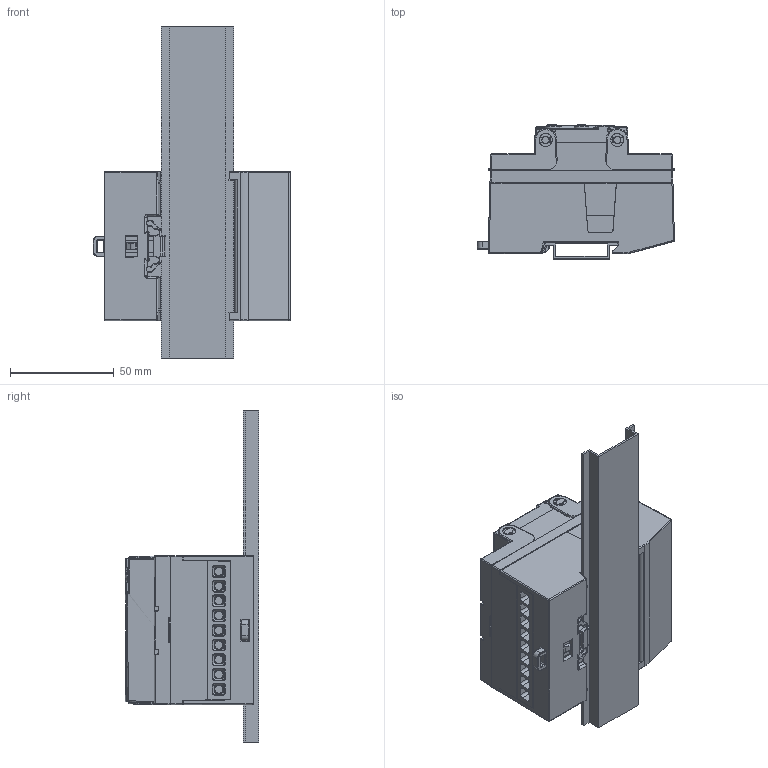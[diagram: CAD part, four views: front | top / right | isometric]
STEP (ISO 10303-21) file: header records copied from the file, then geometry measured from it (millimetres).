
FILE_DESCRIPTION (( 'STEP AP203' ), '1' );
FILE_NAME ('NZR-90008.STEP', '2023-10-17T07:42:49', ( '' ), ( '' ), 'SwSTEP 2.0', 'SolidWorks 2019', '' );
FILE_SCHEMA (( 'CONFIG_CONTROL_DESIGN' ));
Products named in the file (1): NZR-90008
Bounding box: 95.14 x 64.5 x 160 mm (x, y, z)
Volume: 314949.5 mm3; surface area: 79553.3 mm2
Topology: 4 solids, 9 shells, 5026 faces, 14136 edges, 9243 vertices
Faces by surface type: plane 2162, bspline 2072, cylinder 587, cone 169, sphere 27, torus 9
Entity records: 213964 total; most frequent: CARTESIAN_POINT 102903, ORIENTED_EDGE 28196, DIRECTION 14230, EDGE_CURVE 14098, VERTEX_POINT 9241, VECTOR 7370, LINE 7370, B_SPLINE_CURVE_WITH_KNOTS 6007
